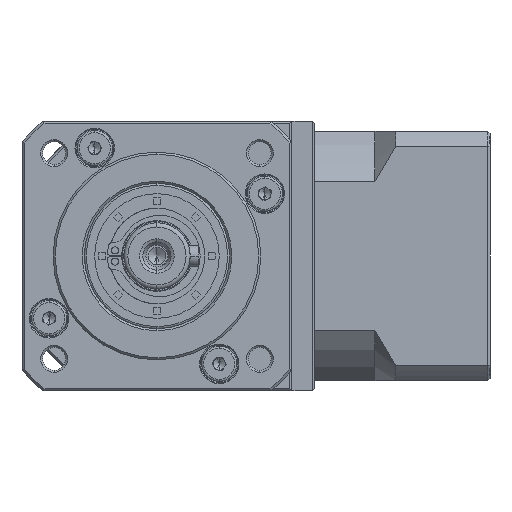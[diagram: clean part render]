
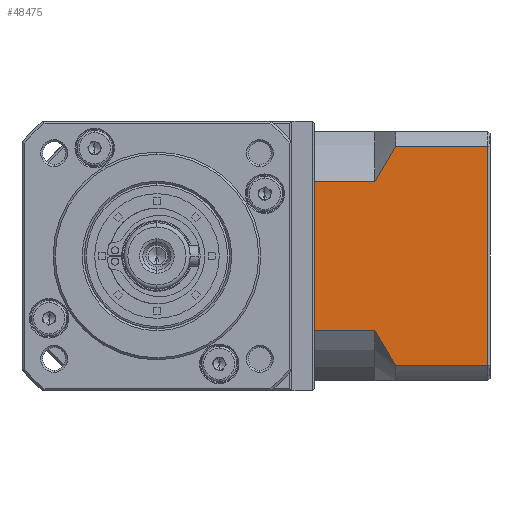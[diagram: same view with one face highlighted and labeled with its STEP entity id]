
A CAD part, left-side view. The second image highlights one B-rep face of the part: STEP entity #48475.
In plain terms, the highlighted planar face has unit normal (-1, 0, 0).
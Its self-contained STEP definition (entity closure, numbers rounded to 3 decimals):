
#574 = CARTESIAN_POINT ( 'NONE',  ( -9.184, -50.78, -109.606 ) ) ;
#4140 = EDGE_LOOP ( 'NONE', ( #154298, #76390, #11639, #112585, #37934, #126639, #96651, #102746 ) ) ;
#8718 = EDGE_CURVE ( 'NONE', #67587, #94509, #85814, .T. ) ;
#9795 = DIRECTION ( 'NONE',  ( 0., 0., -1. ) ) ;
#11128 = DIRECTION ( 'NONE',  ( 0., -1., 0. ) ) ;
#11639 = ORIENTED_EDGE ( 'NONE', *, *, #109193, .F. ) ;
#14963 = VERTEX_POINT ( 'NONE', #574 ) ;
#15895 = LINE ( 'NONE', #99219, #148692 ) ;
#22802 = EDGE_CURVE ( 'NONE', #149416, #14963, #156607, .T. ) ;
#25295 = CARTESIAN_POINT ( 'NONE',  ( -9.184, -51.53, -147.118 ) ) ;
#30985 = CARTESIAN_POINT ( 'NONE',  ( -9.184, -50.78, -145.661 ) ) ;
#35514 = CARTESIAN_POINT ( 'NONE',  ( -9.184, -50.78, -101.176 ) ) ;
#35836 = VECTOR ( 'NONE', #123961, 1000. ) ;
#36355 = CARTESIAN_POINT ( 'NONE',  ( -9.184, -54.88, -102.536 ) ) ;
#37934 = ORIENTED_EDGE ( 'NONE', *, *, #103805, .F. ) ;
#38147 = LINE ( 'NONE', #35514, #72744 ) ;
#43795 = VERTEX_POINT ( 'NONE', #112117 ) ;
#43818 = B_SPLINE_CURVE_WITH_KNOTS ( 'NONE', 3,
 ( #128208, #25295, #141085, #64368, #153900, #77339 ),
 .UNSPECIFIED., .F., .F.,
 ( 4, 2, 4 ),
 ( 0.1, 0.104, 0.109 ),
 .UNSPECIFIED. ) ;
#48241 = VECTOR ( 'NONE', #116791, 1000. ) ;
#48475 = ADVANCED_FACE ( 'NONE', ( #73902 ), #48865, .F. ) ;
#48865 = PLANE ( 'NONE',  #64171 ) ;
#49877 = LINE ( 'NONE', #153035, #114308 ) ;
#52695 = CARTESIAN_POINT ( 'NONE',  ( -9.184, -77.98, -157.634 ) ) ;
#55666 = DIRECTION ( 'NONE',  ( 0., 1., 0. ) ) ;
#58458 = CARTESIAN_POINT ( 'NONE',  ( -9.184, -36.28, -109.606 ) ) ;
#62516 = CARTESIAN_POINT ( 'NONE',  ( -9.184, -54.007, -103.915 ) ) ;
#62992 = EDGE_CURVE ( 'NONE', #43795, #149730, #146617, .T. ) ;
#64171 = AXIS2_PLACEMENT_3D ( 'NONE', #152065, #75484, #164899 ) ;
#64368 = CARTESIAN_POINT ( 'NONE',  ( -9.184, -54.004, -151.349 ) ) ;
#67587 = VERTEX_POINT ( 'NONE', #30985 ) ;
#68753 = CARTESIAN_POINT ( 'NONE',  ( -9.184, -50.78, -145.661 ) ) ;
#69408 = EDGE_CURVE ( 'NONE', #163183, #94509, #49877, .T. ) ;
#72744 = VECTOR ( 'NONE', #125579, 1000. ) ;
#73902 = FACE_OUTER_BOUND ( 'NONE', #4140, .T. ) ;
#75484 = DIRECTION ( 'NONE',  ( 1., 0., 0. ) ) ;
#75498 = CARTESIAN_POINT ( 'NONE',  ( -9.184, -51.528, -108.154 ) ) ;
#76390 = ORIENTED_EDGE ( 'NONE', *, *, #62992, .T. ) ;
#77339 = CARTESIAN_POINT ( 'NONE',  ( -9.184, -55.78, -154.091 ) ) ;
#85814 = LINE ( 'NONE', #68753, #115767 ) ;
#88114 = CARTESIAN_POINT ( 'NONE',  ( -9.184, -77.98, -101.176 ) ) ;
#94509 = VERTEX_POINT ( 'NONE', #154117 ) ;
#96651 = ORIENTED_EDGE ( 'NONE', *, *, #8718, .F. ) ;
#97472 = EDGE_CURVE ( 'NONE', #43795, #150039, #104439, .T. ) ;
#99219 = CARTESIAN_POINT ( 'NONE',  ( -9.184, -50.78, -109.606 ) ) ;
#102746 = ORIENTED_EDGE ( 'NONE', *, *, #149853, .T. ) ;
#103805 = EDGE_CURVE ( 'NONE', #163183, #14963, #15895, .T. ) ;
#104439 = LINE ( 'NONE', #122256, #35836 ) ;
#105887 = CARTESIAN_POINT ( 'NONE',  ( -9.184, -55.78, -154.091 ) ) ;
#109193 = EDGE_CURVE ( 'NONE', #149416, #149730, #38147, .T. ) ;
#112117 = CARTESIAN_POINT ( 'NONE',  ( -9.184, -77.98, -154.091 ) ) ;
#112585 = ORIENTED_EDGE ( 'NONE', *, *, #22802, .T. ) ;
#114308 = VECTOR ( 'NONE', #9795, 1000. ) ;
#115767 = VECTOR ( 'NONE', #55666, 1000. ) ;
#116791 = DIRECTION ( 'NONE',  ( 0., 0., 1. ) ) ;
#118372 = CARTESIAN_POINT ( 'NONE',  ( -9.184, -55.78, -101.176 ) ) ;
#122256 = CARTESIAN_POINT ( 'NONE',  ( -9.184, -50.78, -154.091 ) ) ;
#123961 = DIRECTION ( 'NONE',  ( 0., 1., 0. ) ) ;
#125579 = DIRECTION ( 'NONE',  ( 0., -1., 0. ) ) ;
#126401 = CARTESIAN_POINT ( 'NONE',  ( -9.184, -55.78, -101.176 ) ) ;
#126639 = ORIENTED_EDGE ( 'NONE', *, *, #69408, .T. ) ;
#128208 = CARTESIAN_POINT ( 'NONE',  ( -9.184, -50.78, -145.661 ) ) ;
#141085 = CARTESIAN_POINT ( 'NONE',  ( -9.184, -52.33, -148.543 ) ) ;
#146617 = LINE ( 'NONE', #52695, #48241 ) ;
#148692 = VECTOR ( 'NONE', #11128, 1000. ) ;
#149416 = VERTEX_POINT ( 'NONE', #118372 ) ;
#149730 = VERTEX_POINT ( 'NONE', #88114 ) ;
#149853 = EDGE_CURVE ( 'NONE', #67587, #150039, #43818, .T. ) ;
#150039 = VERTEX_POINT ( 'NONE', #105887 ) ;
#152065 = CARTESIAN_POINT ( 'NONE',  ( -9.184, -78.48, -157.634 ) ) ;
#152086 = CARTESIAN_POINT ( 'NONE',  ( -9.184, -52.331, -106.722 ) ) ;
#153035 = CARTESIAN_POINT ( 'NONE',  ( -9.184, -36.28, -157.634 ) ) ;
#153900 = CARTESIAN_POINT ( 'NONE',  ( -9.184, -54.878, -152.728 ) ) ;
#154117 = CARTESIAN_POINT ( 'NONE',  ( -9.184, -36.28, -145.661 ) ) ;
#154298 = ORIENTED_EDGE ( 'NONE', *, *, #97472, .F. ) ;
#156607 = B_SPLINE_CURVE_WITH_KNOTS ( 'NONE', 3,
 ( #126401, #36355, #62516, #152086, #75498, #164916 ),
 .UNSPECIFIED., .F., .F.,
 ( 4, 2, 4 ),
 ( 0.052, 0.057, 0.062 ),
 .UNSPECIFIED. ) ;
#163183 = VERTEX_POINT ( 'NONE', #58458 ) ;
#164899 = DIRECTION ( 'NONE',  ( 0., 1., 0. ) ) ;
#164916 = CARTESIAN_POINT ( 'NONE',  ( -9.184, -50.78, -109.606 ) ) ;
